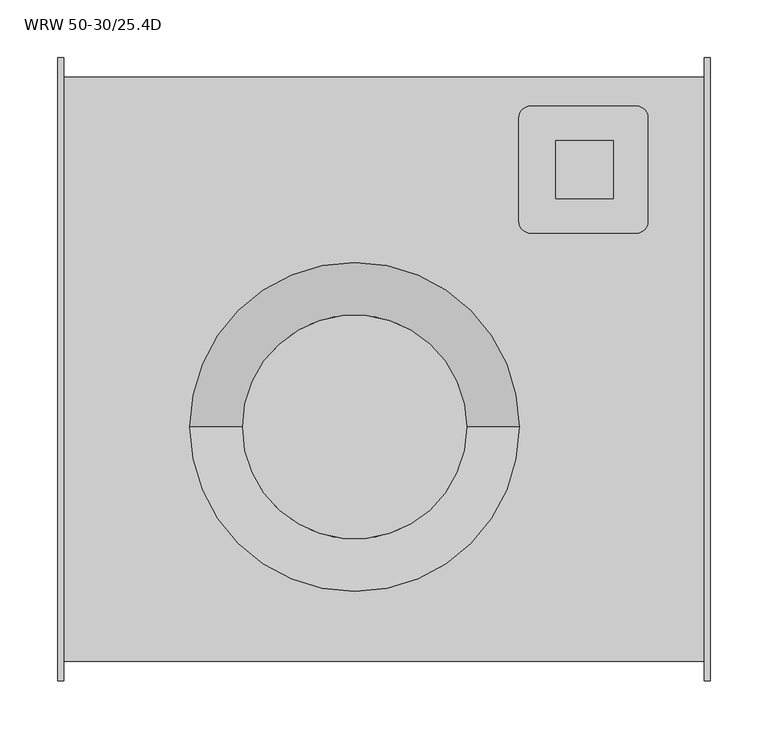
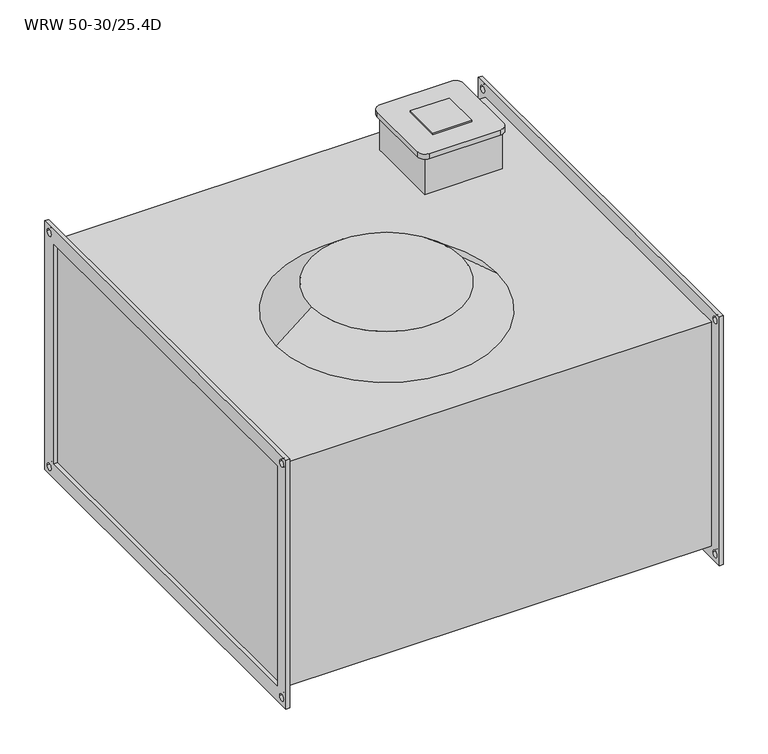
"""IFC4 building model written with IfcOpenShell, lengths in millimetres: proxy geometry, KORF_Вентилятор_WRW : WRW 50-30/25.4D."""

from ifc_helpers import new_model, si_unit, point, frame, frame_2d, origin, place, context, project, spatial, polyline, circle_curve, trimmed, segment, composite_curve, outline, extrude, source, transform, mapped, element, save
from ifc_brep_helpers import plane_surface, cylinder_surface, revolved_surface, advanced_brep


def wrw_50_30_25_4d_f64196a9(model_context):
    return source(origin(), model_context, "Body", "SolidModel", [
        extrude(outline(polyline([(431.0, 148.0), (431.0, 198.0), (481.0, 198.0), (481.0, 148.0), (431.0, 148.0)])), frame((0.0, 0.0, 211.0), z_axis=(0.0, 0.0, 1.0), x_axis=(1.0, 0.0, 0.0)), (0.0, 0.0, 1.0), 2.0),
        advanced_brep(
        [(501.0, 228.0, 211.0), (409.318163, 228.0, 211.0), (399.318163, 218.0, 211.0), (399.318163, 128.0, 211.0), (409.318163, 118.0, 211.0), (501.0, 118.0, 211.0), (511.0, 128.0, 211.0), (511.0, 218.0, 211.0), (501.0, 228.0, 204.0), (511.0, 218.0, 204.0), (511.0, 128.0, 204.0), (501.0, 118.0, 204.0), (409.318163, 118.0, 204.0), (399.318163, 128.0, 204.0), (399.318163, 218.0, 204.0), (409.318163, 228.0, 204.0), (506.0, 223.0, 204.0), (406.0, 223.0, 204.0), (406.0, 123.0, 204.0), (506.0, 123.0, 204.0), (506.0, 223.0, 153.0), (506.0, 123.0, 153.0), (406.0, 123.0, 153.0), (406.0, 223.0, 153.0)],
        [
            (0, 1),
            (1, 2, circle_curve(frame((409.318163, 218.0, 211.0), z_axis=(0.0, 0.0, 1.0), x_axis=(1.0, 0.0, 0.0)), 10.0)),
            (2, 3),
            (3, 4, circle_curve(frame((409.318163, 128.0, 211.0), z_axis=(0.0, 0.0, 1.0), x_axis=(1.0, 0.0, 0.0)), 10.0)),
            (4, 5),
            (5, 6, circle_curve(frame((501.0, 128.0, 211.0), z_axis=(0.0, 0.0, 1.0), x_axis=(1.0, 0.0, 0.0)), 10.0)),
            (6, 7),
            (7, 0, circle_curve(frame((501.0, 218.0, 211.0), z_axis=(0.0, 0.0, 1.0), x_axis=(1.0, 0.0, 0.0)), 10.0)),
            (8, 9, circle_curve(frame((501.0, 218.0, 204.0), z_axis=(0.0, 0.0, -1.0), x_axis=(1.0, 0.0, 0.0)), 10.0)),
            (9, 10),
            (10, 11, circle_curve(frame((501.0, 128.0, 204.0), z_axis=(0.0, 0.0, -1.0), x_axis=(1.0, 0.0, 0.0)), 10.0)),
            (11, 12),
            (12, 13, circle_curve(frame((409.318163, 128.0, 204.0), z_axis=(0.0, 0.0, -1.0), x_axis=(1.0, 0.0, 0.0)), 10.0)),
            (13, 14),
            (14, 15, circle_curve(frame((409.318163, 218.0, 204.0), z_axis=(0.0, 0.0, -1.0), x_axis=(1.0, 0.0, 0.0)), 10.0)),
            (15, 8),
            (16, 17),
            (17, 18),
            (18, 19),
            (19, 16),
            (0, 8),
            (15, 1),
            (14, 2),
            (13, 3),
            (12, 4),
            (11, 5),
            (10, 6),
            (9, 7),
            (20, 21),
            (21, 22),
            (22, 23),
            (23, 20),
            (23, 17),
            (16, 20),
            (22, 18),
            (21, 19),
        ],
        [
            plane_surface(frame((409.318163, 228.0, 211.0), z_axis=(0.0, 0.0, 1.0), x_axis=(-1.0, 0.0, 0.0))),
            plane_surface(frame((409.318163, 228.0, 204.0), z_axis=(0.0, 0.0, -1.0), x_axis=(1.0, 0.0, 0.0))),
            plane_surface(frame((501.0, 228.0, 211.0), z_axis=(0.0, 1.0, 0.0), x_axis=(0.0, 0.0, -1.0))),
            cylinder_surface(frame((409.318163, 218.0, 204.0), z_axis=(0.0, 0.0, 1.0), x_axis=(1.0, 0.0, 0.0)), 10.0),
            plane_surface(frame((399.318163, 218.0, 211.0), z_axis=(-1.0, 0.0, 0.0), x_axis=(0.0, 0.0, -1.0))),
            cylinder_surface(frame((409.318163, 128.0, 204.0), z_axis=(0.0, 0.0, 1.0), x_axis=(1.0, 0.0, 0.0)), 10.0),
            plane_surface(frame((409.318163, 118.0, 211.0), z_axis=(0.0, -1.0, 0.0), x_axis=(0.0, 0.0, -1.0))),
            cylinder_surface(frame((501.0, 128.0, 204.0), z_axis=(0.0, 0.0, 1.0), x_axis=(1.0, 0.0, 0.0)), 10.0),
            plane_surface(frame((511.0, 128.0, 211.0), z_axis=(1.0, 0.0, 0.0), x_axis=(0.0, 0.0, -1.0))),
            cylinder_surface(frame((501.0, 218.0, 204.0), z_axis=(0.0, 0.0, 1.0), x_axis=(1.0, 0.0, 0.0)), 10.0),
            plane_surface(frame((406.0, 223.0, 153.0), z_axis=(0.0, 0.0, -1.0), x_axis=(1.0, 0.0, 0.0))),
            plane_surface(frame((506.0, 223.0, 211.0), z_axis=(0.0, 1.0, 0.0), x_axis=(0.0, 0.0, -1.0))),
            plane_surface(frame((406.0, 223.0, 211.0), z_axis=(-1.0, 0.0, 0.0), x_axis=(0.0, 0.0, -1.0))),
            plane_surface(frame((406.0, 123.0, 211.0), z_axis=(0.0, -1.0, 0.0), x_axis=(0.0, 0.0, -1.0))),
            plane_surface(frame((506.0, 123.0, 211.0), z_axis=(1.0, 0.0, 0.0), x_axis=(0.0, 0.0, -1.0))),
        ],
        [
            (0, [[1, 2, 3, 4, 5, 6, 7, 8]]),
            (1, [[9, 10, 11, 12, 13, 14, 15, 16], [17, 18, 19, 20]]),
            (2, [[-1, 21, -16, 22]]),
            (3, [[-2, -22, -15, 23]]),
            (4, [[-3, -23, -14, 24]]),
            (5, [[-4, -24, -13, 25]]),
            (6, [[-5, -25, -12, 26]]),
            (7, [[-6, -26, -11, 27]]),
            (8, [[-7, -27, -10, 28]]),
            (9, [[-8, -28, -9, -21]]),
            (10, [[29, 30, 31, 32]]),
            (11, [[-32, 33, -17, 34]]),
            (12, [[-31, 35, -18, -33]]),
            (13, [[-30, 36, -19, -35]]),
            (14, [[-29, -34, -20, -36]]),
        ],
    ),
        advanced_brep(
        [(114.5, -50.0, 153.0), (399.5, -50.0, 153.0), (160.0, -50.0, 190.5), (354.0, -50.0, 190.5)],
        [
            (0, 1, circle_curve(frame((257.0, -50.0, 153.0), z_axis=(0.0, 0.0, -1.0), x_axis=(-1.0, 0.0, 0.0)), 142.5)),
            (1, 0, circle_curve(frame((257.0, -50.0, 153.0), z_axis=(0.0, 0.0, -1.0), x_axis=(1.0, 0.0, 0.0)), 142.5)),
            (2, 3, circle_curve(frame((257.0, -50.0, 190.5), z_axis=(0.0, 0.0, 1.0), x_axis=(1.0, 0.0, 0.0)), 97.0)),
            (3, 2, circle_curve(frame((257.0, -50.0, 190.5), z_axis=(0.0, 0.0, 1.0), x_axis=(-1.0, 0.0, 0.0)), 97.0)),
            (2, 0),
            (1, 3),
        ],
        [
            plane_surface(frame((257.0, -50.0, 153.0), z_axis=(0.0, 0.0, -1.0), x_axis=(0.0, -1.0, 0.0))),
            plane_surface(frame((257.0, -50.0, 190.5), z_axis=(0.0, 0.0, 1.0), x_axis=(0.0, -1.0, 0.0))),
            revolved_surface(polyline([(160.00000001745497, -50.0, 190.5), (114.5, -50.0, 153.0)]), (257.0, -50.0, 270.4450549), (0.0, 0.0, -1.0)),
            revolved_surface(polyline([(353.99999998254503, -50.0, 190.5), (399.5, -50.0, 153.0)]), (257.0, -50.0, 270.4450549), (0.0, 0.0, -1.0)),
        ],
        [
            (0, [[1, 2]]),
            (1, [[3, 4]]),
            (2, [[-3, 5, -2, 6]]),
            (3, [[-4, -6, -1, -5]]),
        ],
    ),
        extrude(outline(polyline([(-270.0, 170.0), (270.0, 170.0), (270.0, -170.0), (-270.0, -170.0), (-270.0, 170.0)]), holes=[polyline([(-250.0, 150.0), (-250.0, -150.0), (250.0, -150.0), (250.0, 150.0), (-250.0, 150.0)]), composite_curve([segment(trimmed(circle_curve(frame_2d((260.0, 160.0)), 4.5), [point((255.5, 160.0))], [point((264.5, 160.0))], True, "CARTESIAN"), True, "CONTINUOUS"), segment(trimmed(circle_curve(frame_2d((260.0, 160.0)), 4.5), [point((264.5, 160.0))], [point((255.5, 160.0))], True, "CARTESIAN"), True, "CONTINUOUS")], self_intersect=False), composite_curve([segment(trimmed(circle_curve(frame_2d((-260.0, 160.0)), 4.5), [point((-264.5, 160.0))], [point((-255.5, 160.0))], True, "CARTESIAN"), True, "CONTINUOUS"), segment(trimmed(circle_curve(frame_2d((-260.0, 160.0)), 4.5), [point((-255.5, 160.0))], [point((-264.5, 160.0))], True, "CARTESIAN"), True, "CONTINUOUS")], self_intersect=False), composite_curve([segment(trimmed(circle_curve(frame_2d((-260.0, -160.0)), 4.5), [point((-264.5, -160.0))], [point((-255.5, -160.0))], True, "CARTESIAN"), True, "CONTINUOUS"), segment(trimmed(circle_curve(frame_2d((-260.0, -160.0)), 4.5), [point((-255.5, -160.0))], [point((-264.5, -160.0))], True, "CARTESIAN"), True, "CONTINUOUS")], self_intersect=False), composite_curve([segment(trimmed(circle_curve(frame_2d((260.0, -160.0)), 4.5), [point((255.5, -160.0))], [point((264.5, -160.0))], True, "CARTESIAN"), True, "CONTINUOUS"), segment(trimmed(circle_curve(frame_2d((260.0, -160.0)), 4.5), [point((264.5, -160.0))], [point((255.5, -160.0))], True, "CARTESIAN"), True, "CONTINUOUS")], self_intersect=False)]), frame((560.0, 0.0, 0.0), z_axis=(1.0, 0.0, 0.0), x_axis=(0.0, 1.0, 0.0)), (0.0, 0.0, 1.0), 5.0),
        extrude(outline(polyline([(-270.0, 170.0), (270.0, 170.0), (270.0, -170.0), (-270.0, -170.0), (-270.0, 170.0)]), holes=[polyline([(-250.0, 150.0), (-250.0, -150.0), (250.0, -150.0), (250.0, 150.0), (-250.0, 150.0)]), composite_curve([segment(trimmed(circle_curve(frame_2d((260.0, 160.0)), 4.5), [point((255.5, 160.0))], [point((264.5, 160.0))], True, "CARTESIAN"), True, "CONTINUOUS"), segment(trimmed(circle_curve(frame_2d((260.0, 160.0)), 4.5), [point((264.5, 160.0))], [point((255.5, 160.0))], True, "CARTESIAN"), True, "CONTINUOUS")], self_intersect=False), composite_curve([segment(trimmed(circle_curve(frame_2d((-260.0, 160.0)), 4.5), [point((-264.5, 160.0))], [point((-255.5, 160.0))], True, "CARTESIAN"), True, "CONTINUOUS"), segment(trimmed(circle_curve(frame_2d((-260.0, 160.0)), 4.5), [point((-255.5, 160.0))], [point((-264.5, 160.0))], True, "CARTESIAN"), True, "CONTINUOUS")], self_intersect=False), composite_curve([segment(trimmed(circle_curve(frame_2d((-260.0, -160.0)), 4.5), [point((-264.5, -160.0))], [point((-255.5, -160.0))], True, "CARTESIAN"), True, "CONTINUOUS"), segment(trimmed(circle_curve(frame_2d((-260.0, -160.0)), 4.5), [point((-255.5, -160.0))], [point((-264.5, -160.0))], True, "CARTESIAN"), True, "CONTINUOUS")], self_intersect=False), composite_curve([segment(trimmed(circle_curve(frame_2d((260.0, -160.0)), 4.5), [point((255.5, -160.0))], [point((264.5, -160.0))], True, "CARTESIAN"), True, "CONTINUOUS"), segment(trimmed(circle_curve(frame_2d((260.0, -160.0)), 4.5), [point((264.5, -160.0))], [point((255.5, -160.0))], True, "CARTESIAN"), True, "CONTINUOUS")], self_intersect=False)]), frame((0.0, 0.0, 0.0), z_axis=(1.0, 0.0, 0.0), x_axis=(0.0, 1.0, 0.0)), (0.0, 0.0, 1.0), 5.0),
        extrude(outline(polyline([(560.0, 253.0), (560.0, -253.0), (5.0, -253.0), (5.0, 253.0), (560.0, 253.0)])), frame((0.0, 0.0, -153.0), z_axis=(0.0, 0.0, 1.0), x_axis=(1.0, 0.0, 0.0)), (0.0, 0.0, 1.0), 306.0),
    ])


if __name__ == "__main__":
    model = new_model("IFC4")
    model_context = context("Model", 3, world=origin())
    ifc_project = project(units=[si_unit("LENGTHUNIT", "METRE", prefix="MILLI")], contexts=[model_context])
    site = spatial("IfcSite", under=ifc_project)
    building = spatial("IfcBuilding", under=site)
    placement = place(None, origin())
    wrw_50_30_25_4d_shape = wrw_50_30_25_4d_f64196a9(model_context)
    element("IfcBuildingElementProxy", 1, Name="KORF_Вентилятор_WRW : WRW 50-30/25.4D", ObjectType="KORF_Вентилятор_WRW : WRW 50-30/25.4D", at=placement, inside=building, context=model_context, shape_type="MappedRepresentation", body=[
        mapped(wrw_50_30_25_4d_shape, transform((0.0, 0.0, 0.0), x_axis=(1.0, 0.0, 0.0), y_axis=(0.0, 1.0, 0.0), z_axis=(0.0, 0.0, 1.0))),
    ])
    save(model, "model.ifc")
